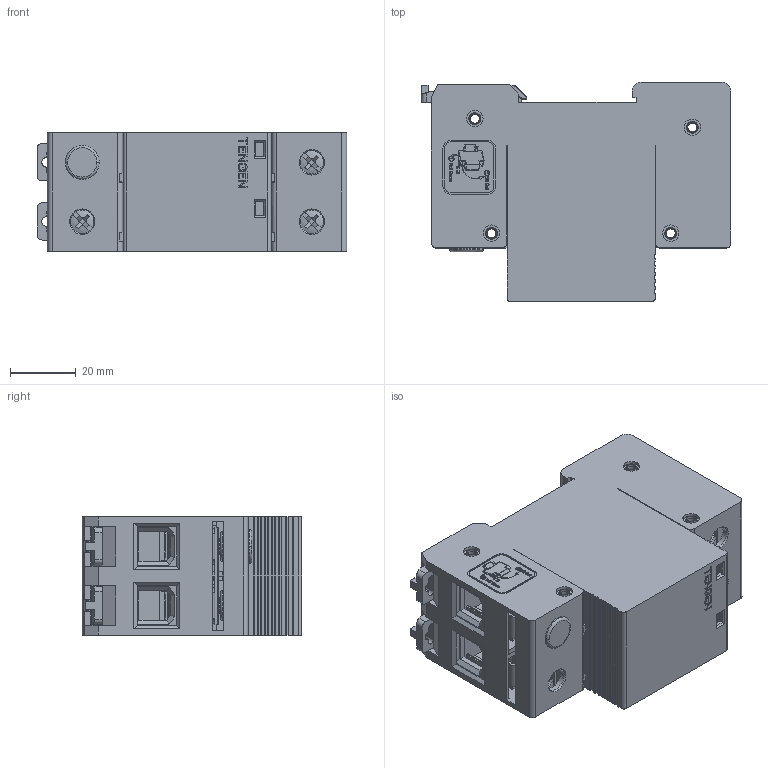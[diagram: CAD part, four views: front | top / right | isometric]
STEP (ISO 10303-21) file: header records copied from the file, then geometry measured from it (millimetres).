
FILE_DESCRIPTION((''),'2;1');
FILE_NAME('TENGEN_TGDY55II_20_40_385V_2P','2024-01-09T16:05:12',('zhanghualong1'),(''),'CREO PARAMETRIC BY PTC INC, 2020354','CREO PARAMETRIC BY PTC INC, 2020354','');
FILE_SCHEMA(('CONFIG_CONTROL_DESIGN'));
Products named in the file (1): TENGEN_TGDY55II_20_40_385V_2P
Bounding box: 94.1 x 66.7 x 36 mm (x, y, z)
Volume: 94081.1 mm3; surface area: 97801.8 mm2
Topology: 13 solids, 17 shells, 4253 faces, 11561 edges, 7460 vertices
Faces by surface type: plane 3067, cylinder 744, extrusion 230, cone 100, torus 72, bspline 24, sphere 16
Entity records: 136379 total; most frequent: CARTESIAN_POINT 29084, ORIENTED_EDGE 23106, DIRECTION 20665, EDGE_CURVE 11553, VECTOR 9473, LINE 9243, VERTEX_POINT 7460, AXIS2_PLACEMENT_3D 5596
